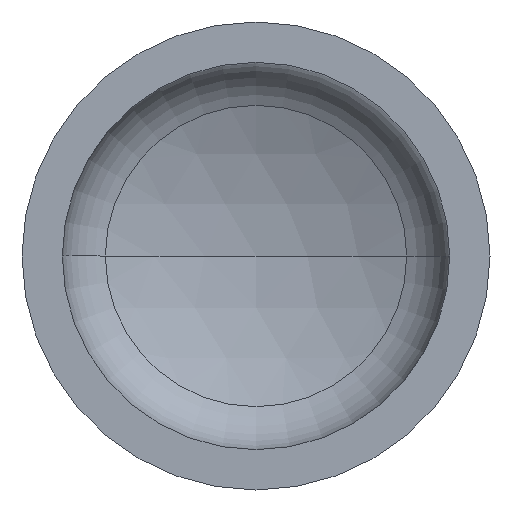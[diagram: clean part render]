
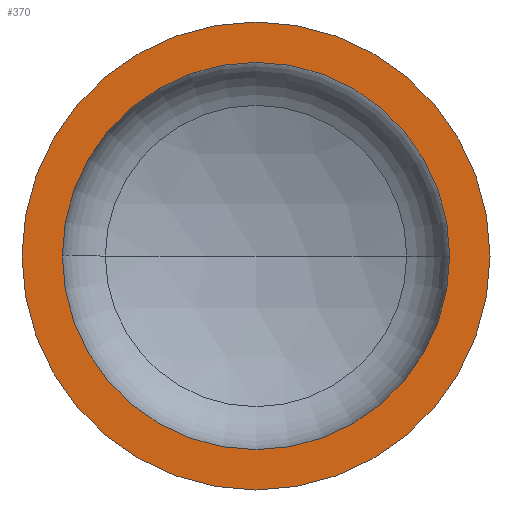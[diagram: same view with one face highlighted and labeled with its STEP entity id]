
A CAD part, front view. The second image highlights one B-rep face of the part: STEP entity #370.
In plain terms, the highlighted planar face has unit normal (0, -1, 0).
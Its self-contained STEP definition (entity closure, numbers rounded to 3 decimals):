
#2 = CARTESIAN_POINT ( 'NONE',  ( 650., 0., 0. ) ) ;
#6 = AXIS2_PLACEMENT_3D ( 'NONE', #230, #58, #95 ) ;
#19 = EDGE_LOOP ( 'NONE', ( #273, #146 ) ) ;
#31 = AXIS2_PLACEMENT_3D ( 'NONE', #397, #158, #77 ) ;
#35 = ORIENTED_EDGE ( 'NONE', *, *, #401, .F. ) ;
#44 = VERTEX_POINT ( 'NONE', #281 ) ;
#54 = AXIS2_PLACEMENT_3D ( 'NONE', #206, #207, #304 ) ;
#58 = DIRECTION ( 'NONE',  ( 0., 1., 0. ) ) ;
#61 = AXIS2_PLACEMENT_3D ( 'NONE', #312, #311, #307 ) ;
#77 = DIRECTION ( 'NONE',  ( 1., 0., 0. ) ) ;
#87 = EDGE_CURVE ( 'NONE', #129, #176, #258, .T. ) ;
#91 = EDGE_CURVE ( 'NONE', #161, #44, #190, .T. ) ;
#92 = EDGE_LOOP ( 'NONE', ( #182, #35 ) ) ;
#95 = DIRECTION ( 'NONE',  ( -1., 0., 0. ) ) ;
#107 = FACE_BOUND ( 'NONE', #92, .T. ) ;
#129 = VERTEX_POINT ( 'NONE', #216 ) ;
#146 = ORIENTED_EDGE ( 'NONE', *, *, #87, .T. ) ;
#150 = PLANE ( 'NONE',  #6 ) ;
#152 = CARTESIAN_POINT ( 'NONE',  ( 0., 0., 0. ) ) ;
#158 = DIRECTION ( 'NONE',  ( 0., -1., 0. ) ) ;
#161 = VERTEX_POINT ( 'NONE', #299 ) ;
#176 = VERTEX_POINT ( 'NONE', #2 ) ;
#182 = ORIENTED_EDGE ( 'NONE', *, *, #91, .F. ) ;
#190 = CIRCLE ( 'NONE', #54, 538. ) ;
#196 = DIRECTION ( 'NONE',  ( 1., 0., 0. ) ) ;
#206 = CARTESIAN_POINT ( 'NONE',  ( 0., 0., 0. ) ) ;
#207 = DIRECTION ( 'NONE',  ( 0., -1., 0. ) ) ;
#216 = CARTESIAN_POINT ( 'NONE',  ( -650., 0., 0. ) ) ;
#230 = CARTESIAN_POINT ( 'NONE',  ( -650., 0., 0. ) ) ;
#258 = CIRCLE ( 'NONE', #61, 650. ) ;
#273 = ORIENTED_EDGE ( 'NONE', *, *, #343, .T. ) ;
#279 = AXIS2_PLACEMENT_3D ( 'NONE', #152, #337, #196 ) ;
#281 = CARTESIAN_POINT ( 'NONE',  ( -538., 0., 0. ) ) ;
#299 = CARTESIAN_POINT ( 'NONE',  ( 538., 0., 0. ) ) ;
#304 = DIRECTION ( 'NONE',  ( 1., 0., 0. ) ) ;
#307 = DIRECTION ( 'NONE',  ( 1., 0., 0. ) ) ;
#311 = DIRECTION ( 'NONE',  ( 0., -1., 0. ) ) ;
#312 = CARTESIAN_POINT ( 'NONE',  ( 0., 0., 0. ) ) ;
#327 = FACE_OUTER_BOUND ( 'NONE', #19, .T. ) ;
#337 = DIRECTION ( 'NONE',  ( 0., -1., 0. ) ) ;
#343 = EDGE_CURVE ( 'NONE', #176, #129, #373, .T. ) ;
#370 = ADVANCED_FACE ( 'NONE', ( #107, #327 ), #150, .F. ) ;
#373 = CIRCLE ( 'NONE', #31, 650. ) ;
#377 = CIRCLE ( 'NONE', #279, 538. ) ;
#397 = CARTESIAN_POINT ( 'NONE',  ( 0., 0., 0. ) ) ;
#401 = EDGE_CURVE ( 'NONE', #44, #161, #377, .T. ) ;
